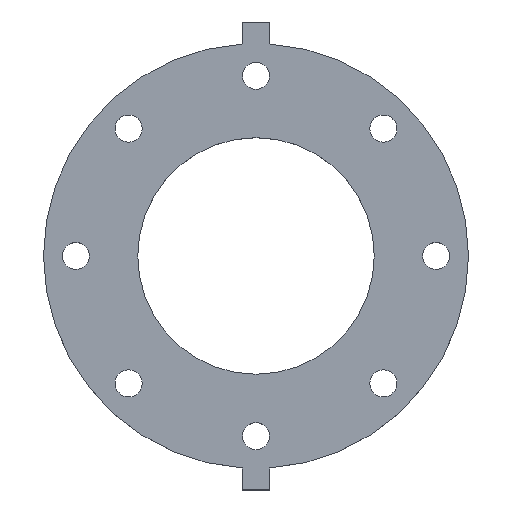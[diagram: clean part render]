
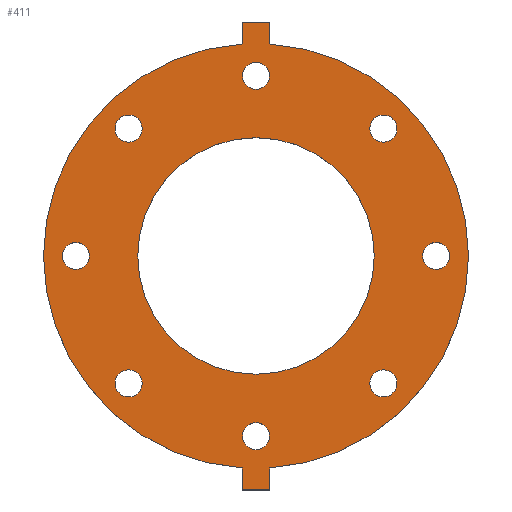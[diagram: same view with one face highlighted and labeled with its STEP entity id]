
A CAD part, top view. The second image highlights one B-rep face of the part: STEP entity #411.
In plain terms, the highlighted planar face has unit normal (0, 0, 1).
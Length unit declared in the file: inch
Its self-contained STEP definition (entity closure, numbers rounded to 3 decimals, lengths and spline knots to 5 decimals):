
#14=FACE_BOUND('',#77,.T.);
#15=FACE_BOUND('',#78,.T.);
#16=FACE_BOUND('',#79,.T.);
#17=FACE_BOUND('',#80,.T.);
#18=FACE_BOUND('',#81,.T.);
#19=FACE_BOUND('',#82,.T.);
#20=FACE_BOUND('',#83,.T.);
#21=FACE_BOUND('',#84,.T.);
#22=FACE_BOUND('',#85,.T.);
#38=PLANE('',#472);
#57=FACE_OUTER_BOUND('',#76,.T.);
#76=EDGE_LOOP('',(#329,#330,#331,#332,#333,#334,#335,#336));
#77=EDGE_LOOP('',(#337));
#78=EDGE_LOOP('',(#338));
#79=EDGE_LOOP('',(#339));
#80=EDGE_LOOP('',(#340));
#81=EDGE_LOOP('',(#341));
#82=EDGE_LOOP('',(#342));
#83=EDGE_LOOP('',(#343));
#84=EDGE_LOOP('',(#344));
#85=EDGE_LOOP('',(#345));
#111=LINE('',#665,#140);
#113=LINE('',#670,#142);
#116=LINE('',#674,#145);
#119=LINE('',#682,#148);
#122=LINE('',#686,#151);
#124=LINE('',#689,#153);
#140=VECTOR('',#559,0.3937);
#142=VECTOR('',#563,0.3937);
#145=VECTOR('',#568,0.3937);
#148=VECTOR('',#573,0.3937);
#151=VECTOR('',#578,0.3937);
#153=VECTOR('',#582,0.3937);
#154=CIRCLE('',#434,0.315);
#156=CIRCLE('',#437,0.315);
#158=CIRCLE('',#440,0.315);
#160=CIRCLE('',#443,0.315);
#162=CIRCLE('',#446,0.315);
#164=CIRCLE('',#449,0.315);
#166=CIRCLE('',#452,0.315);
#168=CIRCLE('',#455,0.315);
#171=CIRCLE('',#459,2.75);
#173=CIRCLE('',#462,4.94);
#174=CIRCLE('',#464,4.94);
#176=VERTEX_POINT('',#589);
#178=VERTEX_POINT('',#595);
#180=VERTEX_POINT('',#601);
#182=VERTEX_POINT('',#607);
#184=VERTEX_POINT('',#613);
#186=VERTEX_POINT('',#619);
#188=VERTEX_POINT('',#625);
#190=VERTEX_POINT('',#631);
#193=VERTEX_POINT('',#639);
#195=VERTEX_POINT('',#644);
#197=VERTEX_POINT('',#648);
#199=VERTEX_POINT('',#653);
#200=VERTEX_POINT('',#655);
#203=VERTEX_POINT('',#663);
#205=VERTEX_POINT('',#669);
#208=VERTEX_POINT('',#679);
#209=VERTEX_POINT('',#681);
#210=EDGE_CURVE('',#176,#176,#154,.T.);
#213=EDGE_CURVE('',#178,#178,#156,.T.);
#216=EDGE_CURVE('',#180,#180,#158,.T.);
#219=EDGE_CURVE('',#182,#182,#160,.T.);
#222=EDGE_CURVE('',#184,#184,#162,.T.);
#225=EDGE_CURVE('',#186,#186,#164,.T.);
#228=EDGE_CURVE('',#188,#188,#166,.T.);
#231=EDGE_CURVE('',#190,#190,#168,.T.);
#236=EDGE_CURVE('',#193,#193,#171,.T.);
#240=EDGE_CURVE('',#195,#197,#173,.T.);
#242=EDGE_CURVE('',#200,#199,#174,.T.);
#247=EDGE_CURVE('',#197,#203,#111,.T.);
#249=EDGE_CURVE('',#205,#200,#113,.T.);
#252=EDGE_CURVE('',#203,#205,#116,.T.);
#255=EDGE_CURVE('',#209,#208,#119,.T.);
#258=EDGE_CURVE('',#199,#209,#122,.T.);
#260=EDGE_CURVE('',#208,#195,#124,.T.);
#329=ORIENTED_EDGE('',*,*,#260,.T.);
#330=ORIENTED_EDGE('',*,*,#240,.T.);
#331=ORIENTED_EDGE('',*,*,#247,.T.);
#332=ORIENTED_EDGE('',*,*,#252,.T.);
#333=ORIENTED_EDGE('',*,*,#249,.T.);
#334=ORIENTED_EDGE('',*,*,#242,.T.);
#335=ORIENTED_EDGE('',*,*,#258,.T.);
#336=ORIENTED_EDGE('',*,*,#255,.T.);
#337=ORIENTED_EDGE('',*,*,#210,.T.);
#338=ORIENTED_EDGE('',*,*,#213,.T.);
#339=ORIENTED_EDGE('',*,*,#216,.T.);
#340=ORIENTED_EDGE('',*,*,#219,.T.);
#341=ORIENTED_EDGE('',*,*,#222,.T.);
#342=ORIENTED_EDGE('',*,*,#225,.T.);
#343=ORIENTED_EDGE('',*,*,#228,.T.);
#344=ORIENTED_EDGE('',*,*,#231,.T.);
#345=ORIENTED_EDGE('',*,*,#236,.T.);
#411=ADVANCED_FACE('',(#57,#14,#15,#16,#17,#18,#19,#20,#21,#22),#38,.T.);
#434=AXIS2_PLACEMENT_3D('',#590,#478,#479);
#437=AXIS2_PLACEMENT_3D('',#596,#485,#486);
#440=AXIS2_PLACEMENT_3D('',#602,#492,#493);
#443=AXIS2_PLACEMENT_3D('',#608,#499,#500);
#446=AXIS2_PLACEMENT_3D('',#614,#506,#507);
#449=AXIS2_PLACEMENT_3D('',#620,#513,#514);
#452=AXIS2_PLACEMENT_3D('',#626,#520,#521);
#455=AXIS2_PLACEMENT_3D('',#632,#527,#528);
#459=AXIS2_PLACEMENT_3D('',#641,#537,#538);
#462=AXIS2_PLACEMENT_3D('',#650,#545,#546);
#464=AXIS2_PLACEMENT_3D('',#656,#550,#551);
#472=AXIS2_PLACEMENT_3D('',#690,#583,#584);
#478=DIRECTION('center_axis',(0.,0.,-1.));
#479=DIRECTION('ref_axis',(-0.707,-0.707,0.));
#485=DIRECTION('center_axis',(0.,0.,-1.));
#486=DIRECTION('ref_axis',(-1.,0.,0.));
#492=DIRECTION('center_axis',(0.,0.,-1.));
#493=DIRECTION('ref_axis',(-0.707,0.707,0.));
#499=DIRECTION('center_axis',(0.,0.,-1.));
#500=DIRECTION('ref_axis',(0.,1.,0.));
#506=DIRECTION('center_axis',(0.,0.,-1.));
#507=DIRECTION('ref_axis',(0.707,0.707,0.));
#513=DIRECTION('center_axis',(0.,0.,-1.));
#514=DIRECTION('ref_axis',(1.,0.,0.));
#520=DIRECTION('center_axis',(0.,0.,-1.));
#521=DIRECTION('ref_axis',(0.707,-0.707,0.));
#527=DIRECTION('center_axis',(0.,0.,-1.));
#528=DIRECTION('ref_axis',(0.,-1.,0.));
#537=DIRECTION('center_axis',(0.,0.,-1.));
#538=DIRECTION('ref_axis',(0.,-1.,0.));
#545=DIRECTION('center_axis',(0.,0.,1.));
#546=DIRECTION('ref_axis',(0.,1.,0.));
#550=DIRECTION('center_axis',(0.,0.,1.));
#551=DIRECTION('ref_axis',(0.,1.,0.));
#559=DIRECTION('',(0.,-1.,0.));
#563=DIRECTION('',(0.,1.,0.));
#568=DIRECTION('',(1.,0.,0.));
#573=DIRECTION('',(-1.,0.,0.));
#578=DIRECTION('',(0.,1.,0.));
#582=DIRECTION('',(0.,-1.,0.));
#583=DIRECTION('center_axis',(0.,0.,1.));
#584=DIRECTION('ref_axis',(0.,1.,0.));
#589=CARTESIAN_POINT('',(-2.74004,3.18552,1.13));
#590=CARTESIAN_POINT('Origin',(-2.96278,2.96278,1.13));
#595=CARTESIAN_POINT('',(0.315,4.19,1.13));
#596=CARTESIAN_POINT('Origin',(0.,4.19,1.13));
#601=CARTESIAN_POINT('',(3.18552,2.74004,1.13));
#602=CARTESIAN_POINT('Origin',(2.96278,2.96278,1.13));
#607=CARTESIAN_POINT('',(4.19,-0.315,1.13));
#608=CARTESIAN_POINT('Origin',(4.19,0.,1.13));
#613=CARTESIAN_POINT('',(2.74004,-3.18552,1.13));
#614=CARTESIAN_POINT('Origin',(2.96278,-2.96278,1.13));
#619=CARTESIAN_POINT('',(-0.315,-4.19,1.13));
#620=CARTESIAN_POINT('Origin',(0.,-4.19,1.13));
#625=CARTESIAN_POINT('',(-3.18552,-2.74004,1.13));
#626=CARTESIAN_POINT('Origin',(-2.96278,-2.96278,1.13));
#631=CARTESIAN_POINT('',(-4.19,0.315,1.13));
#632=CARTESIAN_POINT('Origin',(-4.19,0.,1.13));
#639=CARTESIAN_POINT('',(0.,2.75,1.13));
#641=CARTESIAN_POINT('Origin',(0.,0.,1.13));
#644=CARTESIAN_POINT('',(-0.32,4.92962,1.13));
#648=CARTESIAN_POINT('',(-0.32,-4.92962,1.13));
#650=CARTESIAN_POINT('Origin',(0.,0.,1.13));
#653=CARTESIAN_POINT('',(0.32,4.92962,1.13));
#655=CARTESIAN_POINT('',(0.32,-4.92962,1.13));
#656=CARTESIAN_POINT('Origin',(0.,0.,1.13));
#663=CARTESIAN_POINT('',(-0.32,-5.44,1.13));
#665=CARTESIAN_POINT('',(-0.32,-4.92962,1.13));
#669=CARTESIAN_POINT('',(0.32,-5.44,1.13));
#670=CARTESIAN_POINT('',(0.32,-5.44,1.13));
#674=CARTESIAN_POINT('',(-0.32,-5.44,1.13));
#679=CARTESIAN_POINT('',(-0.32,5.44,1.13));
#681=CARTESIAN_POINT('',(0.32,5.44,1.13));
#682=CARTESIAN_POINT('',(0.32,5.44,1.13));
#686=CARTESIAN_POINT('',(0.32,4.92962,1.13));
#689=CARTESIAN_POINT('',(-0.32,5.44,1.13));
#690=CARTESIAN_POINT('Origin',(0.,5.20539,1.13));
